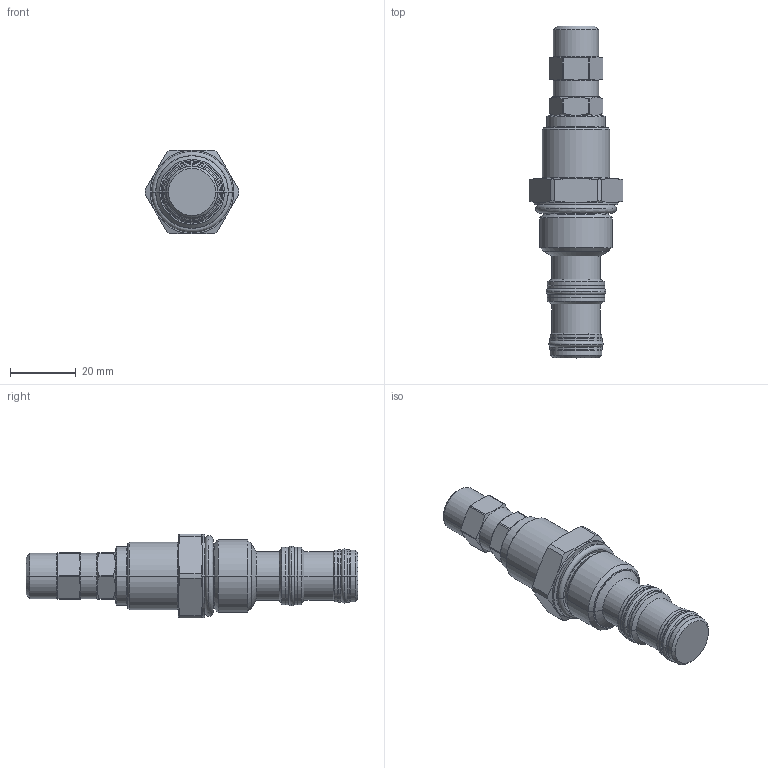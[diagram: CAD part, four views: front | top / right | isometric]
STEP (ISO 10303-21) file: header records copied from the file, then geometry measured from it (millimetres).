
FILE_DESCRIPTION((''),'2;1');
FILE_NAME('5413800_SW0004','2009-05-22T',('jcs'),(''),'PRO/ENGINEER BY PARAMETRIC TECHNOLOGY CORPORATION, 2008510','PRO/ENGINEER BY PARAMETRIC TECHNOLOGY CORPORATION, 2008510','');
FILE_SCHEMA(('CONFIG_CONTROL_DESIGN'));
Length unit declared in the file: inch
Products named in the file (1): 5413800_SW0004
Bounding box: 28.57 x 100.98 x 25.4 mm (x, y, z)
Volume: 24896.5 mm3; surface area: 9750.4 mm2
Topology: 5 solids, 6 shells, 220 faces, 474 edges, 271 vertices
Faces by surface type: cylinder 70, cone 58, plane 36, torus 32, revolution 24
Entity records: 6730 total; most frequent: CARTESIAN_POINT 1885, DIRECTION 1078, ORIENTED_EDGE 944, EDGE_CURVE 472, AXIS2_PLACEMENT_3D 462, VERTEX_POINT 271, CIRCLE 266, EDGE_LOOP 235
